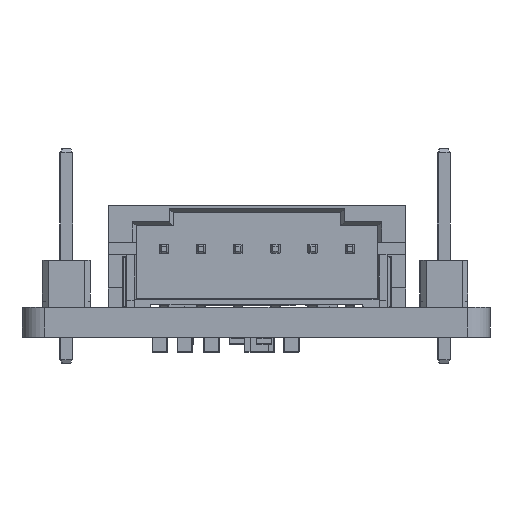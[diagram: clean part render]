
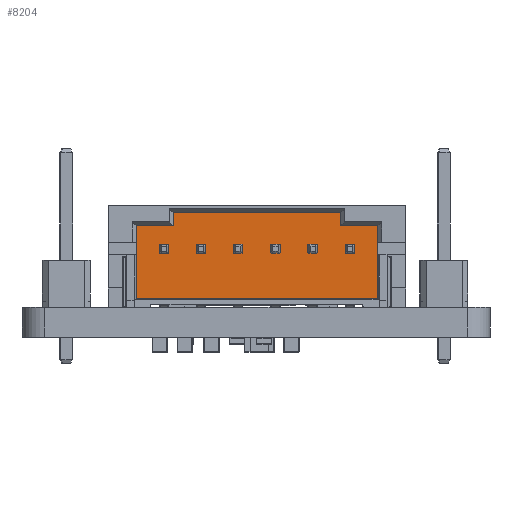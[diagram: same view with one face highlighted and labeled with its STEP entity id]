
A CAD part, left-side view. The second image highlights one B-rep face of the part: STEP entity #8204.
In plain terms, the highlighted planar face has unit normal (-1, 0, 0) as drawn and (0, -1, 0) by its records, which use the part's own axes.
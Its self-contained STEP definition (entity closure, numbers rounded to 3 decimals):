
#6559=FACE_OUTER_BOUND('',#11529,.T.);
#8204=ADVANCED_FACE('',(#6559),#9619,.T.);
#9619=PLANE('',#36796);
#11529=EDGE_LOOP('',(#15530,#15531,#15532,#15533,#15534,#15535,#15536,#15537,
#15538,#15539));
#15530=ORIENTED_EDGE('',*,*,#25969,.T.);
#15531=ORIENTED_EDGE('',*,*,#25968,.F.);
#15532=ORIENTED_EDGE('',*,*,#25872,.F.);
#15533=ORIENTED_EDGE('',*,*,#25970,.T.);
#15534=ORIENTED_EDGE('',*,*,#25929,.F.);
#15535=ORIENTED_EDGE('',*,*,#25971,.T.);
#15536=ORIENTED_EDGE('',*,*,#25972,.T.);
#15537=ORIENTED_EDGE('',*,*,#25973,.F.);
#15538=ORIENTED_EDGE('',*,*,#25974,.T.);
#15539=ORIENTED_EDGE('',*,*,#25975,.F.);
#22612=VERTEX_POINT('',#54166);
#22613=VERTEX_POINT('',#54168);
#22620=VERTEX_POINT('',#54187);
#22658=VERTEX_POINT('',#54269);
#22661=VERTEX_POINT('',#54279);
#22662=VERTEX_POINT('',#54280);
#22691=VERTEX_POINT('',#54357);
#22692=VERTEX_POINT('',#54361);
#22693=VERTEX_POINT('',#54363);
#22694=VERTEX_POINT('',#54365);
#25872=EDGE_CURVE('',#22612,#22613,#29747,.T.);
#25929=EDGE_CURVE('',#22661,#22662,#29803,.T.);
#25968=EDGE_CURVE('',#22613,#22620,#29841,.T.);
#25969=EDGE_CURVE('',#22691,#22620,#29842,.T.);
#25970=EDGE_CURVE('',#22612,#22662,#29843,.T.);
#25971=EDGE_CURVE('',#22661,#22658,#29844,.T.);
#25972=EDGE_CURVE('',#22658,#22692,#29845,.T.);
#25973=EDGE_CURVE('',#22693,#22692,#29846,.T.);
#25974=EDGE_CURVE('',#22693,#22694,#29847,.T.);
#25975=EDGE_CURVE('',#22691,#22694,#29848,.T.);
#29747=LINE('',#54167,#33308);
#29803=LINE('',#54278,#33364);
#29841=LINE('',#54354,#33402);
#29842=LINE('',#54356,#33403);
#29843=LINE('',#54358,#33404);
#29844=LINE('',#54359,#33405);
#29845=LINE('',#54360,#33406);
#29846=LINE('',#54362,#33407);
#29847=LINE('',#54364,#33408);
#29848=LINE('',#54366,#33409);
#33308=VECTOR('',#39890,1.);
#33364=VECTOR('',#39960,1.);
#33402=VECTOR('',#40014,1.);
#33403=VECTOR('',#40017,1.);
#33404=VECTOR('',#40018,1.);
#33405=VECTOR('',#40019,1.);
#33406=VECTOR('',#40020,1.);
#33407=VECTOR('',#40021,1.);
#33408=VECTOR('',#40022,1.);
#33409=VECTOR('',#40023,1.);
#36796=AXIS2_PLACEMENT_3D('',#54367,#40024,#40025);
#39890=DIRECTION('',(0.,0.,1.));
#39960=DIRECTION('',(0.,0.,-1.));
#40014=DIRECTION('',(1.,0.,0.));
#40017=DIRECTION('',(-1.,0.,0.));
#40018=DIRECTION('',(1.,0.,0.));
#40019=DIRECTION('',(-1.,0.,0.));
#40020=DIRECTION('',(-1.,0.,0.));
#40021=DIRECTION('',(0.,0.,-1.));
#40022=DIRECTION('',(-1.,0.,0.));
#40023=DIRECTION('',(0.,0.,1.));
#40024=DIRECTION('',(0.,-1.,0.));
#40025=DIRECTION('',(0.,0.,-1.));
#54166=CARTESIAN_POINT('',(-6.5,3.35,0.55));
#54167=CARTESIAN_POINT('',(-6.5,3.35,0.05));
#54168=CARTESIAN_POINT('',(-6.5,3.35,4.45));
#54187=CARTESIAN_POINT('',(-5.5,3.35,4.45));
#54269=CARTESIAN_POINT('',(5.5,3.35,4.45));
#54278=CARTESIAN_POINT('',(6.5,3.35,6.05));
#54279=CARTESIAN_POINT('',(6.5,3.35,4.45));
#54280=CARTESIAN_POINT('',(6.5,3.35,0.55));
#54354=CARTESIAN_POINT('',(-5.4,3.35,4.45));
#54356=CARTESIAN_POINT('',(-7.8,3.35,4.45));
#54357=CARTESIAN_POINT('',(-4.5,3.35,4.45));
#54358=CARTESIAN_POINT('',(-7.8,3.35,0.55));
#54359=CARTESIAN_POINT('',(-7.8,3.35,4.45));
#54360=CARTESIAN_POINT('',(-7.8,3.35,4.45));
#54361=CARTESIAN_POINT('',(4.5,3.35,4.45));
#54362=CARTESIAN_POINT('',(4.5,3.35,5.82));
#54363=CARTESIAN_POINT('',(4.5,3.35,5.15));
#54364=CARTESIAN_POINT('',(-7.8,3.35,5.15));
#54365=CARTESIAN_POINT('',(-4.5,3.35,5.15));
#54366=CARTESIAN_POINT('',(-4.5,3.35,3.78));
#54367=CARTESIAN_POINT('',(-7.8,3.35,5.61));
